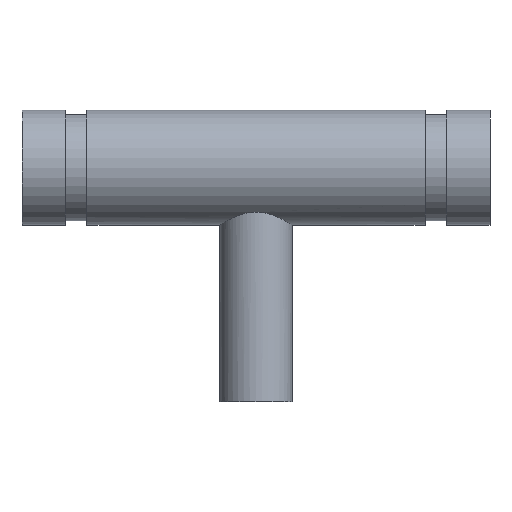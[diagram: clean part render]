
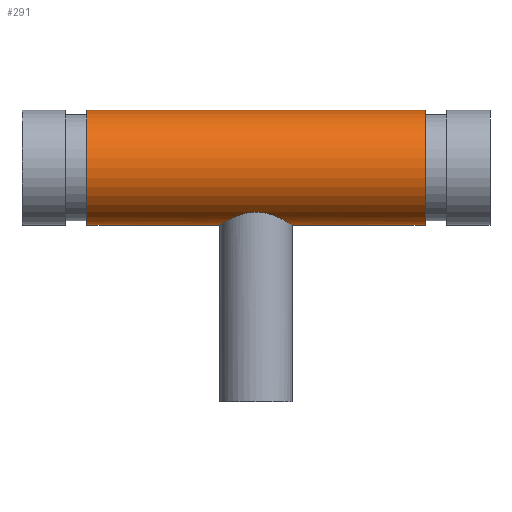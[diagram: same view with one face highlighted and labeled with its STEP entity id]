
A CAD part, top view. The second image highlights one B-rep face of the part: STEP entity #291.
In plain terms, the highlighted cylindrical face has radius 21.082 mm (diameter 42.164 mm), a full revolution.
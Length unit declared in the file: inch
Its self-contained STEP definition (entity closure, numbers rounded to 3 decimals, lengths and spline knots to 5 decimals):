
#45=B_SPLINE_CURVE_WITH_KNOTS('',3,(#511,#512,#513,#514,#515,#516,#517,
#518,#519,#520,#521,#522,#523,#524,#525,#526,#527,#528,#529,#530,#531,#532,
#533,#534,#535,#536,#537,#538,#539,#540,#541,#542,#543,#544,#545,#546,#547,
#548),.UNSPECIFIED.,.F.,.F.,(4,2,2,2,2,2,2,2,2,2,2,2,2,2,2,2,2,2,4),(0.,
0.26135,0.52269,1.04538,1.56369,1.82284,
2.08199,2.34114,2.60029,3.1186,3.64129,
3.90263,4.16398,4.42532,4.68667,5.20936,
5.72766,5.98682,6.24597),.UNSPECIFIED.);
#46=B_SPLINE_CURVE_WITH_KNOTS('',3,(#549,#550,#551,#552,#553,#554,#555,
#556,#557,#558,#559,#560,#561,#562),.UNSPECIFIED.,.F.,.F.,(4,2,2,2,2,2,
4),(6.24597,6.50512,6.76427,7.28257,
7.80527,8.06661,8.32796),.UNSPECIFIED.);
#51=LINE('',#508,#59);
#59=VECTOR('',#410,0.83);
#67=CYLINDRICAL_SURFACE('',#338,0.83);
#77=FACE_BOUND('',#108,.T.);
#88=FACE_OUTER_BOUND('',#107,.T.);
#107=EDGE_LOOP('',(#221,#222,#223,#224));
#108=EDGE_LOOP('',(#225,#226));
#121=CIRCLE('',#321,0.83);
#132=CIRCLE('',#337,0.83);
#141=VERTEX_POINT('',#476);
#152=VERTEX_POINT('',#505);
#153=VERTEX_POINT('',#509);
#154=VERTEX_POINT('',#510);
#165=EDGE_CURVE('',#141,#141,#121,.T.);
#178=EDGE_CURVE('',#152,#152,#132,.T.);
#179=EDGE_CURVE('',#152,#141,#51,.T.);
#180=EDGE_CURVE('',#153,#154,#45,.T.);
#181=EDGE_CURVE('',#154,#153,#46,.T.);
#221=ORIENTED_EDGE('',*,*,#178,.T.);
#222=ORIENTED_EDGE('',*,*,#179,.T.);
#223=ORIENTED_EDGE('',*,*,#165,.T.);
#224=ORIENTED_EDGE('',*,*,#179,.F.);
#225=ORIENTED_EDGE('',*,*,#180,.F.);
#226=ORIENTED_EDGE('',*,*,#181,.F.);
#291=ADVANCED_FACE('',(#88,#77),#67,.T.);
#321=AXIS2_PLACEMENT_3D('',#477,#372,#373);
#337=AXIS2_PLACEMENT_3D('',#506,#406,#407);
#338=AXIS2_PLACEMENT_3D('',#507,#408,#409);
#372=DIRECTION('center_axis',(-1.,0.,0.));
#373=DIRECTION('ref_axis',(0.,-1.,0.));
#406=DIRECTION('center_axis',(1.,0.,0.));
#407=DIRECTION('ref_axis',(0.,-1.,0.));
#408=DIRECTION('center_axis',(-1.,0.,0.));
#409=DIRECTION('ref_axis',(0.,-1.,0.));
#410=DIRECTION('',(1.,0.,0.));
#476=CARTESIAN_POINT('',(2.442,0.83,0.));
#477=CARTESIAN_POINT('Origin',(2.442,0.,0.));
#505=CARTESIAN_POINT('',(-2.442,0.83,0.));
#506=CARTESIAN_POINT('Origin',(-2.442,0.,0.));
#507=CARTESIAN_POINT('Origin',(3.38,0.,0.));
#508=CARTESIAN_POINT('',(3.38,0.83,0.));
#509=CARTESIAN_POINT('',(0.,-0.64286,-0.525));
#510=CARTESIAN_POINT('',(-0.525,-0.83,0.));
#511=CARTESIAN_POINT('Ctrl Pts',(0.,-0.64286,
-0.525));
#512=CARTESIAN_POINT('Ctrl Pts',(0.0343,-0.64286,
-0.525));
#513=CARTESIAN_POINT('Ctrl Pts',(0.06924,-0.64569,-0.52159));
#514=CARTESIAN_POINT('Ctrl Pts',(0.1379,-0.65661,-0.50777));
#515=CARTESIAN_POINT('Ctrl Pts',(0.17163,-0.66468,-0.49737));
#516=CARTESIAN_POINT('Ctrl Pts',(0.26786,-0.69375,-0.45686));
#517=CARTESIAN_POINT('Ctrl Pts',(0.3255,-0.71948,-0.41696));
#518=CARTESIAN_POINT('Ctrl Pts',(0.41658,-0.76503,-0.32589));
#519=CARTESIAN_POINT('Ctrl Pts',(0.45674,-0.7883,-0.26815));
#520=CARTESIAN_POINT('Ctrl Pts',(0.49743,-0.81277,-0.17149));
#521=CARTESIAN_POINT('Ctrl Pts',(0.50785,-0.81924,-0.13761));
#522=CARTESIAN_POINT('Ctrl Pts',(0.52164,-0.82786,-0.06887));
#523=CARTESIAN_POINT('Ctrl Pts',(0.525,-0.83,-0.03401));
#524=CARTESIAN_POINT('Ctrl Pts',(0.525,-0.83,0.03401));
#525=CARTESIAN_POINT('Ctrl Pts',(0.52164,-0.82786,0.06887));
#526=CARTESIAN_POINT('Ctrl Pts',(0.50785,-0.81924,0.13761));
#527=CARTESIAN_POINT('Ctrl Pts',(0.49743,-0.81277,0.17149));
#528=CARTESIAN_POINT('Ctrl Pts',(0.45674,-0.7883,0.26815));
#529=CARTESIAN_POINT('Ctrl Pts',(0.41658,-0.76503,0.32589));
#530=CARTESIAN_POINT('Ctrl Pts',(0.3255,-0.71948,0.41696));
#531=CARTESIAN_POINT('Ctrl Pts',(0.26786,-0.69375,0.45686));
#532=CARTESIAN_POINT('Ctrl Pts',(0.17163,-0.66468,0.49737));
#533=CARTESIAN_POINT('Ctrl Pts',(0.1379,-0.65661,0.50777));
#534=CARTESIAN_POINT('Ctrl Pts',(0.06924,-0.64569,
0.52159));
#535=CARTESIAN_POINT('Ctrl Pts',(0.0343,-0.64286,
0.525));
#536=CARTESIAN_POINT('Ctrl Pts',(-0.0343,-0.64286,
0.525));
#537=CARTESIAN_POINT('Ctrl Pts',(-0.06924,-0.64569,
0.52159));
#538=CARTESIAN_POINT('Ctrl Pts',(-0.1379,-0.65661,
0.50777));
#539=CARTESIAN_POINT('Ctrl Pts',(-0.17163,-0.66468,
0.49737));
#540=CARTESIAN_POINT('Ctrl Pts',(-0.26786,-0.69375,
0.45686));
#541=CARTESIAN_POINT('Ctrl Pts',(-0.3255,-0.71948,
0.41696));
#542=CARTESIAN_POINT('Ctrl Pts',(-0.41658,-0.76503,
0.32589));
#543=CARTESIAN_POINT('Ctrl Pts',(-0.45674,-0.7883,0.26815));
#544=CARTESIAN_POINT('Ctrl Pts',(-0.49743,-0.81277,0.17149));
#545=CARTESIAN_POINT('Ctrl Pts',(-0.50785,-0.81924,
0.13761));
#546=CARTESIAN_POINT('Ctrl Pts',(-0.52164,-0.82786,0.06887));
#547=CARTESIAN_POINT('Ctrl Pts',(-0.525,-0.83,0.03401));
#548=CARTESIAN_POINT('Ctrl Pts',(-0.525,-0.83,0.));
#549=CARTESIAN_POINT('Ctrl Pts',(-0.525,-0.83,0.));
#550=CARTESIAN_POINT('Ctrl Pts',(-0.525,-0.83,-0.03401));
#551=CARTESIAN_POINT('Ctrl Pts',(-0.52164,-0.82786,-0.06887));
#552=CARTESIAN_POINT('Ctrl Pts',(-0.50785,-0.81924,
-0.13761));
#553=CARTESIAN_POINT('Ctrl Pts',(-0.49743,-0.81277,-0.17149));
#554=CARTESIAN_POINT('Ctrl Pts',(-0.45674,-0.7883,-0.26815));
#555=CARTESIAN_POINT('Ctrl Pts',(-0.41658,-0.76503,
-0.32589));
#556=CARTESIAN_POINT('Ctrl Pts',(-0.3255,-0.71948,
-0.41696));
#557=CARTESIAN_POINT('Ctrl Pts',(-0.26786,-0.69375,
-0.45686));
#558=CARTESIAN_POINT('Ctrl Pts',(-0.17163,-0.66468,
-0.49737));
#559=CARTESIAN_POINT('Ctrl Pts',(-0.1379,-0.65661,
-0.50777));
#560=CARTESIAN_POINT('Ctrl Pts',(-0.06924,-0.64569,
-0.52159));
#561=CARTESIAN_POINT('Ctrl Pts',(-0.0343,-0.64286,
-0.525));
#562=CARTESIAN_POINT('Ctrl Pts',(0.,-0.64286,
-0.525));
